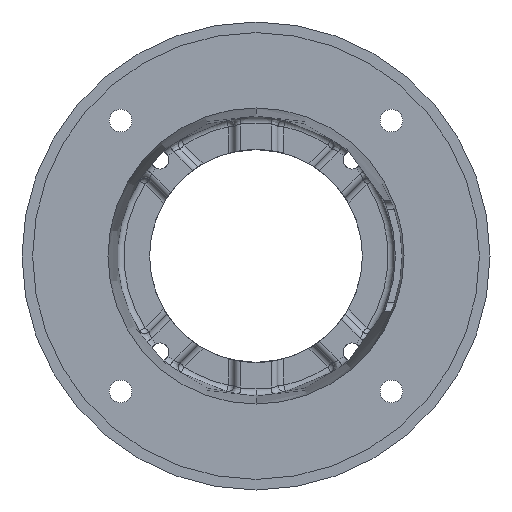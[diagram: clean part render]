
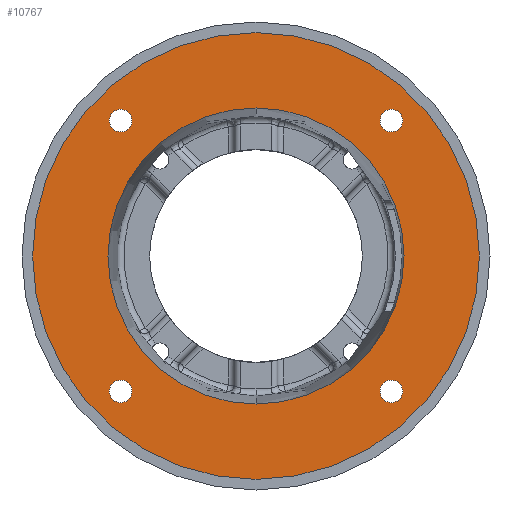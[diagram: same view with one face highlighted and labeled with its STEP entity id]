
A CAD part, front view. The second image highlights one B-rep face of the part: STEP entity #10767.
In plain terms, the highlighted planar face has unit normal (0, -1, 0).
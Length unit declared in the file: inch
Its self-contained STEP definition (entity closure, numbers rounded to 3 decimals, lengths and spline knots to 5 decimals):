
#544 = CARTESIAN_POINT ( 'NONE',  ( 0., 0.18, 3.47973 ) ) ;
#1385 = CARTESIAN_POINT ( 'NONE',  ( 0., 0.18, 0. ) ) ;
#1446 = DIRECTION ( 'NONE',  ( 0., 0., -1. ) ) ;
#1447 = DIRECTION ( 'NONE',  ( 0., 1., 0. ) ) ;
#1448 = AXIS2_PLACEMENT_3D ( 'NONE', #1385, #1447, #1446 ) ;
#1449 = CIRCLE ( 'NONE', #1448, 3.47973 ) ;
#2590 = DIRECTION ( 'NONE',  ( 0., 0., -1. ) ) ;
#2591 = DIRECTION ( 'NONE',  ( 0., -1., 0. ) ) ;
#2592 = CARTESIAN_POINT ( 'NONE',  ( -3.18198, 0.18, 3.18198 ) ) ;
#2605 = CARTESIAN_POINT ( 'NONE',  ( -3.18198, 0.18, 2.91636 ) ) ;
#2606 = CIRCLE ( 'NONE', #2612, 5.2505 ) ;
#2609 = DIRECTION ( 'NONE',  ( 0., 0., -1. ) ) ;
#2610 = DIRECTION ( 'NONE',  ( 0., -1., 0. ) ) ;
#2611 = CARTESIAN_POINT ( 'NONE',  ( 0., 0.18, 0. ) ) ;
#2612 = AXIS2_PLACEMENT_3D ( 'NONE', #2611, #2610, #2609 ) ;
#2627 = DIRECTION ( 'NONE',  ( 0., -1., 0. ) ) ;
#2628 = AXIS2_PLACEMENT_3D ( 'NONE', #2666, #2627, #2661 ) ;
#2629 = CIRCLE ( 'NONE', #2628, 0.26562 ) ;
#2658 = CARTESIAN_POINT ( 'NONE',  ( 0., 0.18, -5.2505 ) ) ;
#2659 = CARTESIAN_POINT ( 'NONE',  ( 0., 0.18, 5.2505 ) ) ;
#2660 = CARTESIAN_POINT ( 'NONE',  ( -3.18198, 0.18, -3.44761 ) ) ;
#2661 = DIRECTION ( 'NONE',  ( 0., 0., -1. ) ) ;
#2666 = CARTESIAN_POINT ( 'NONE',  ( -3.18198, 0.18, -3.18198 ) ) ;
#2716 = AXIS2_PLACEMENT_3D ( 'NONE', #2592, #2591, #2590 ) ;
#2717 = CIRCLE ( 'NONE', #2716, 0.26562 ) ;
#6445 = DIRECTION ( 'NONE',  ( 0., 0., -1. ) ) ;
#6446 = DIRECTION ( 'NONE',  ( 0., -1., 0. ) ) ;
#6447 = AXIS2_PLACEMENT_3D ( 'NONE', #6497, #6446, #6445 ) ;
#6448 = CIRCLE ( 'NONE', #6447, 5.2505 ) ;
#6465 = DIRECTION ( 'NONE',  ( 0., 0., -1. ) ) ;
#6479 = DIRECTION ( 'NONE',  ( 0., -1., 0. ) ) ;
#6480 = CARTESIAN_POINT ( 'NONE',  ( -3.18198, 0.18, 3.18198 ) ) ;
#6481 = AXIS2_PLACEMENT_3D ( 'NONE', #6480, #6479, #6465 ) ;
#6482 = CIRCLE ( 'NONE', #6481, 0.26562 ) ;
#6485 = DIRECTION ( 'NONE',  ( 0., -1., 0. ) ) ;
#6486 = AXIS2_PLACEMENT_3D ( 'NONE', #6554, #6485, #6492 ) ;
#6487 = CIRCLE ( 'NONE', #6486, 0.26562 ) ;
#6488 = FACE_BOUND ( 'NONE', #10772, .T. ) ;
#6489 = FACE_BOUND ( 'NONE', #10750, .T. ) ;
#6490 = FACE_BOUND ( 'NONE', #10806, .T. ) ;
#6491 = FACE_BOUND ( 'NONE', #10764, .T. ) ;
#6492 = DIRECTION ( 'NONE',  ( 0., 0., -1. ) ) ;
#6497 = CARTESIAN_POINT ( 'NONE',  ( 0., 0.18, 0. ) ) ;
#6519 = DIRECTION ( 'NONE',  ( 0., 0., -1. ) ) ;
#6520 = DIRECTION ( 'NONE',  ( 0., -1., 0. ) ) ;
#6529 = PLANE ( 'NONE',  #6533 ) ;
#6530 = FACE_BOUND ( 'NONE', #10808, .T. ) ;
#6531 = FACE_OUTER_BOUND ( 'NONE', #10798, .T. ) ;
#6532 = CARTESIAN_POINT ( 'NONE',  ( 0., 0.18, 0. ) ) ;
#6533 = AXIS2_PLACEMENT_3D ( 'NONE', #6532, #6520, #6519 ) ;
#6535 = CIRCLE ( 'NONE', #6545, 0.26562 ) ;
#6542 = DIRECTION ( 'NONE',  ( 0., 0., -1. ) ) ;
#6543 = DIRECTION ( 'NONE',  ( 0., -1., 0. ) ) ;
#6544 = CARTESIAN_POINT ( 'NONE',  ( 3.18198, 0.18, -3.18198 ) ) ;
#6545 = AXIS2_PLACEMENT_3D ( 'NONE', #6544, #6543, #6542 ) ;
#6550 = CIRCLE ( 'NONE', #6553, 0.26562 ) ;
#6551 = DIRECTION ( 'NONE',  ( 0., -1., 0. ) ) ;
#6552 = CARTESIAN_POINT ( 'NONE',  ( 3.18198, 0.18, 3.18198 ) ) ;
#6553 = AXIS2_PLACEMENT_3D ( 'NONE', #6552, #6551, #6555 ) ;
#6554 = CARTESIAN_POINT ( 'NONE',  ( -3.18198, 0.18, -3.18198 ) ) ;
#6555 = DIRECTION ( 'NONE',  ( 0., 0., -1. ) ) ;
#7852 = AXIS2_PLACEMENT_3D ( 'NONE', #7883, #7882, #7881 ) ;
#7853 = CIRCLE ( 'NONE', #7852, 3.47973 ) ;
#7880 = CARTESIAN_POINT ( 'NONE',  ( 0., 0.18, -3.47973 ) ) ;
#7881 = DIRECTION ( 'NONE',  ( 0., 0., -1. ) ) ;
#7882 = DIRECTION ( 'NONE',  ( 0., 1., 0. ) ) ;
#7883 = CARTESIAN_POINT ( 'NONE',  ( 0., 0.18, 0. ) ) ;
#10026 = VERTEX_POINT ( 'NONE', #11305 ) ;
#10032 = VERTEX_POINT ( 'NONE', #11311 ) ;
#10067 = VERTEX_POINT ( 'NONE', #11331 ) ;
#10068 = VERTEX_POINT ( 'NONE', #11336 ) ;
#10070 = EDGE_CURVE ( 'NONE', #10068, #10026, #11338, .T. ) ;
#10078 = EDGE_CURVE ( 'NONE', #10082, #10083, #11373, .T. ) ;
#10082 = VERTEX_POINT ( 'NONE', #11395 ) ;
#10083 = VERTEX_POINT ( 'NONE', #11394 ) ;
#10095 = EDGE_CURVE ( 'NONE', #10032, #10116, #2717, .T. ) ;
#10111 = EDGE_CURVE ( 'NONE', #10128, #10130, #2606, .T. ) ;
#10116 = VERTEX_POINT ( 'NONE', #2605 ) ;
#10126 = EDGE_CURVE ( 'NONE', #10067, #10127, #2629, .T. ) ;
#10127 = VERTEX_POINT ( 'NONE', #2660 ) ;
#10128 = VERTEX_POINT ( 'NONE', #2659 ) ;
#10130 = VERTEX_POINT ( 'NONE', #2658 ) ;
#10750 = EDGE_LOOP ( 'NONE', ( #10761, #10824 ) ) ;
#10758 = EDGE_CURVE ( 'NONE', #10083, #10082, #6550, .T. ) ;
#10759 = ORIENTED_EDGE ( 'NONE', *, *, #10078, .F. ) ;
#10760 = ORIENTED_EDGE ( 'NONE', *, *, #10095, .F. ) ;
#10761 = ORIENTED_EDGE ( 'NONE', *, *, #10762, .F. ) ;
#10762 = EDGE_CURVE ( 'NONE', #10127, #10067, #6487, .T. ) ;
#10763 = ORIENTED_EDGE ( 'NONE', *, *, #10758, .F. ) ;
#10764 = EDGE_LOOP ( 'NONE', ( #10763, #10759 ) ) ;
#10765 = ORIENTED_EDGE ( 'NONE', *, *, #10070, .F. ) ;
#10767 = ADVANCED_FACE ( 'NONE', ( #6488, #6491, #6490, #6489, #6531, #6530 ), #6529, .T. ) ;
#10772 = EDGE_LOOP ( 'NONE', ( #10813, #10760 ) ) ;
#10788 = EDGE_CURVE ( 'NONE', #10130, #10128, #6448, .T. ) ;
#10797 = EDGE_CURVE ( 'NONE', #10116, #10032, #6482, .T. ) ;
#10798 = EDGE_LOOP ( 'NONE', ( #10807, #10819 ) ) ;
#10806 = EDGE_LOOP ( 'NONE', ( #10811, #10765 ) ) ;
#10807 = ORIENTED_EDGE ( 'NONE', *, *, #10788, .T. ) ;
#10808 = EDGE_LOOP ( 'NONE', ( #10809, #10810 ) ) ;
#10809 = ORIENTED_EDGE ( 'NONE', *, *, #12292, .T. ) ;
#10810 = ORIENTED_EDGE ( 'NONE', *, *, #12685, .T. ) ;
#10811 = ORIENTED_EDGE ( 'NONE', *, *, #10812, .F. ) ;
#10812 = EDGE_CURVE ( 'NONE', #10026, #10068, #6535, .T. ) ;
#10813 = ORIENTED_EDGE ( 'NONE', *, *, #10797, .F. ) ;
#10819 = ORIENTED_EDGE ( 'NONE', *, *, #10111, .T. ) ;
#10824 = ORIENTED_EDGE ( 'NONE', *, *, #10126, .F. ) ;
#11070 = DIRECTION ( 'NONE',  ( 0., 0., -1. ) ) ;
#11071 = DIRECTION ( 'NONE',  ( 0., -1., 0. ) ) ;
#11072 = CARTESIAN_POINT ( 'NONE',  ( 3.18198, 0.18, -3.18198 ) ) ;
#11305 = CARTESIAN_POINT ( 'NONE',  ( 3.18198, 0.18, -3.44761 ) ) ;
#11311 = CARTESIAN_POINT ( 'NONE',  ( -3.18198, 0.18, 3.44761 ) ) ;
#11331 = CARTESIAN_POINT ( 'NONE',  ( -3.18198, 0.18, -2.91636 ) ) ;
#11336 = CARTESIAN_POINT ( 'NONE',  ( 3.18198, 0.18, -2.91636 ) ) ;
#11337 = AXIS2_PLACEMENT_3D ( 'NONE', #11072, #11071, #11070 ) ;
#11338 = CIRCLE ( 'NONE', #11337, 0.26562 ) ;
#11365 = CARTESIAN_POINT ( 'NONE',  ( 3.18198, 0.18, 3.18198 ) ) ;
#11371 = DIRECTION ( 'NONE',  ( 0., -1., 0. ) ) ;
#11372 = AXIS2_PLACEMENT_3D ( 'NONE', #11365, #11371, #11405 ) ;
#11373 = CIRCLE ( 'NONE', #11372, 0.26562 ) ;
#11394 = CARTESIAN_POINT ( 'NONE',  ( 3.18198, 0.18, 2.91636 ) ) ;
#11395 = CARTESIAN_POINT ( 'NONE',  ( 3.18198, 0.18, 3.44761 ) ) ;
#11405 = DIRECTION ( 'NONE',  ( 0., 0., -1. ) ) ;
#12292 = EDGE_CURVE ( 'NONE', #12293, #12423, #7853, .T. ) ;
#12293 = VERTEX_POINT ( 'NONE', #7880 ) ;
#12423 = VERTEX_POINT ( 'NONE', #544 ) ;
#12685 = EDGE_CURVE ( 'NONE', #12423, #12293, #1449, .T. ) ;
